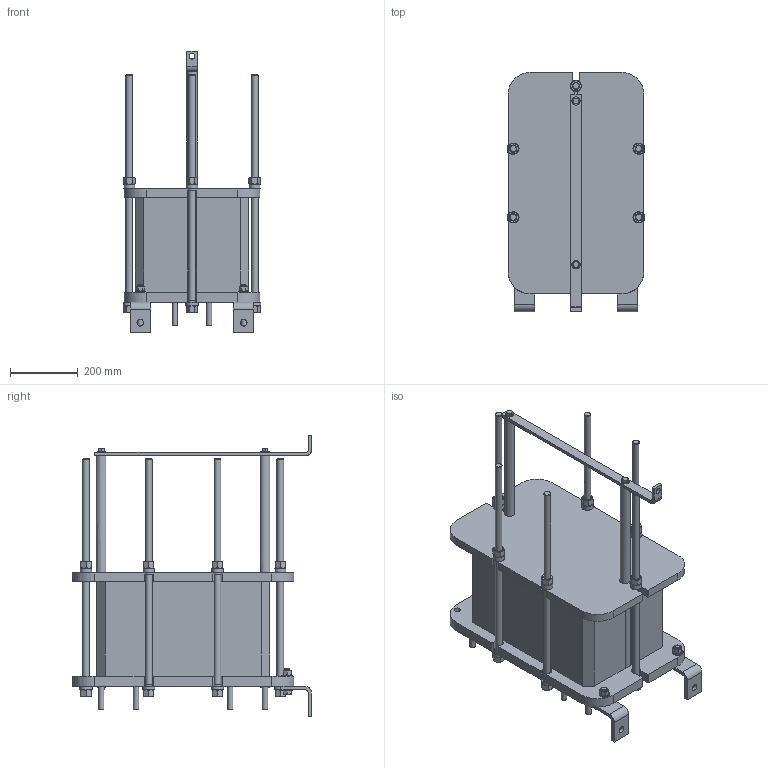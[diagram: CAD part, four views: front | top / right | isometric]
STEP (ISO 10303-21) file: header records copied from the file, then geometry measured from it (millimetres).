
FILE_DESCRIPTION((''),'2;1');
FILE_NAME('C:\temp\TS6_FG_LC650_5_01_Rev0.stp','2009-09-27T12:50:18',('CNSHFLU'),(''),'Autodesk Inventor 2008','Autodesk Inventor 2008','');
FILE_SCHEMA(('AUTOMOTIVE_DESIGN { 1 2 10303 214 0 1 1 1 }'));
Length unit declared in the file: millimetre
Products named in the file (1): TS6
Bounding box: 406 x 704 x 830 mm (x, y, z)
Volume: 59265886.2 mm3; surface area: 2118908.1 mm2
Topology: 1 solids, 7 shells, 1183 faces, 2861 edges, 1799 vertices
Faces by surface type: plane 607, cylinder 284, cone 272, bspline 20
Full cylindrical faces by diameter (mm): 3.75 x4, 12 x4, 13 x4, 13.5 x2, 16 x20, 17 x7, 18 x4, 20 x14, 21 x12, 23.166 x2, 24 x4, 26 x12, 30 x6, 33 x6, 36 x6, 65 x4, 70 x4
Entity records: 33260 total; most frequent: CARTESIAN_POINT 6795, DIRECTION 5489, ORIENTED_EDGE 5374, EDGE_CURVE 2687, AXIS2_PLACEMENT_3D 2094, VERTEX_POINT 1784, EDGE_LOOP 1485, VECTOR 1301
